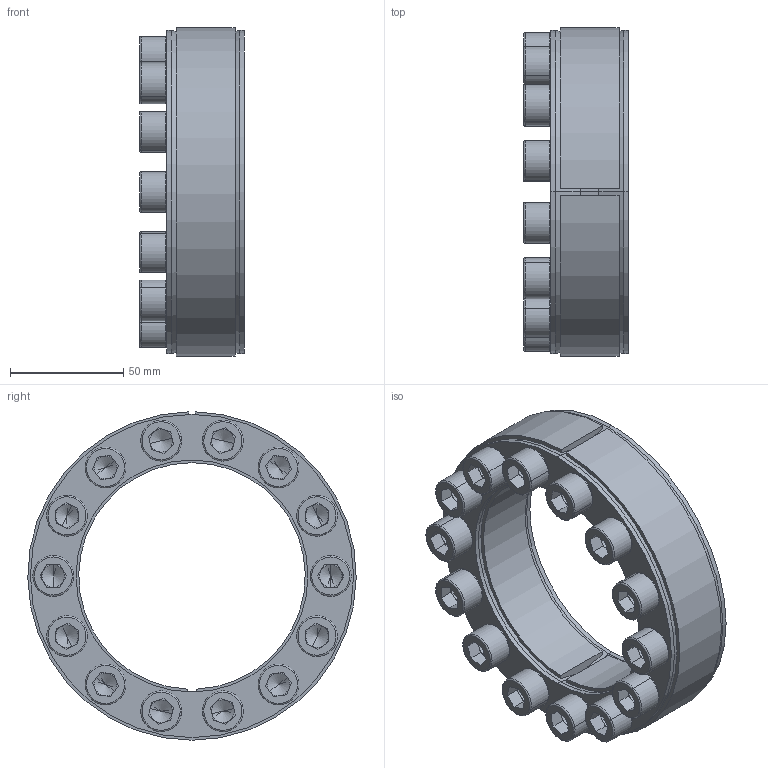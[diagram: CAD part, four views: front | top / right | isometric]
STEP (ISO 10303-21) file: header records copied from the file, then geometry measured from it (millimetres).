
FILE_DESCRIPTION (( 'STEP AP203' ), '1' );
FILE_NAME ('D1-100-145 Assy.STEP', '2017-10-11T07:25:24', ( 'MYCOM' ), ( '' ), 'SwSTEP 2.0', 'SolidWorks 2015', '' );
FILE_SCHEMA (( 'CONFIG_CONTROL_DESIGN' ));
Length unit declared in the file: millimetre
Products named in the file (1): D1-100-145 Assy
Bounding box: 46.2 x 144.99 x 144.98 mm (x, y, z)
Surface area: 92691.7 mm2 (no closed solid volume)
Topology: 0 solids, 32 shells, 395 faces, 976 edges, 598 vertices
Faces by surface type: plane 205, cylinder 95, torus 56, cone 39
Entity records: 11547 total; most frequent: DIRECTION 2190, CARTESIAN_POINT 1984, ORIENTED_EDGE 1733, EDGE_CURVE 948, AXIS2_PLACEMENT_3D 854, VERTEX_POINT 598, VECTOR 482, LINE 482
